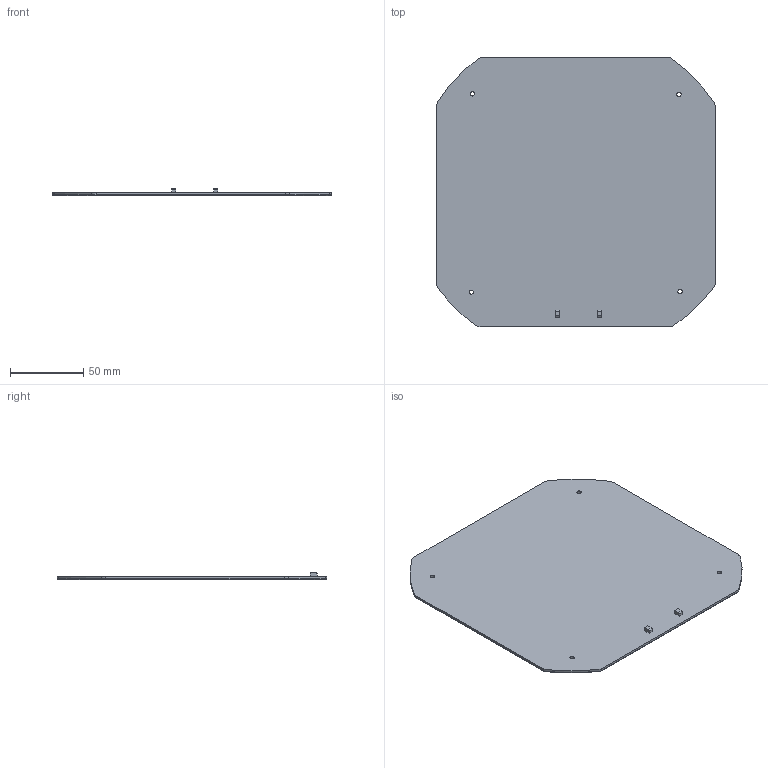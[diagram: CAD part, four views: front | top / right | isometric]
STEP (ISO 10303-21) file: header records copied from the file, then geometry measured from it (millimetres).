
FILE_DESCRIPTION(/* description */ (''),/* implementation_level */ '2;1');
FILE_NAME(/* name */ 'LAST_BASE 07.stp',/* time_stamp */ '2025-11-19T23:13:18+09:00',/* author */ (''),/* organization */ (''),/* preprocessor_version */ 'ST-DEVELOPER v11',/* originating_system */ 'SIEMENS PLM Software NX 7.5',/* authorisation */ '');
FILE_SCHEMA (('CONFIG_CONTROL_DESIGN'));
Length unit declared in the file: millimetre
Products named in the file (1): gyun8741ysgk
Bounding box: 190.4 x 184.4 x 4.9 mm (x, y, z)
Volume: 67137.2 mm3; surface area: 68467.2 mm2
Topology: 1 solids, 1 shells, 52 faces, 128 edges, 80 vertices
Faces by surface type: cylinder 24, plane 16, torus 12
Full cylindrical faces by diameter (mm): 2.9 x4
Entity records: 1638 total; most frequent: DIRECTION 300, CARTESIAN_POINT 258, ORIENTED_EDGE 248, EDGE_CURVE 124, AXIS2_PLACEMENT_3D 122, VERTEX_POINT 80, CIRCLE 68, EDGE_LOOP 66
